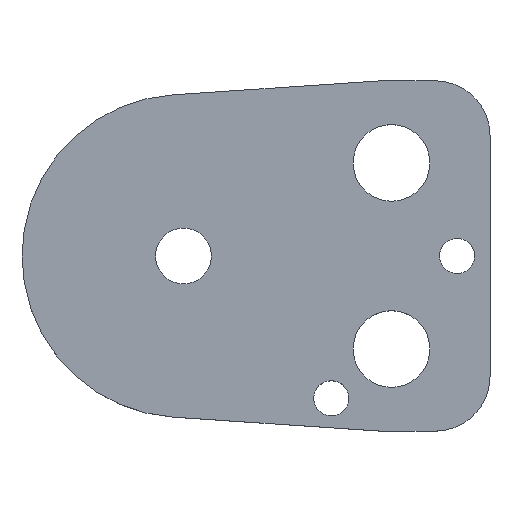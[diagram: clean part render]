
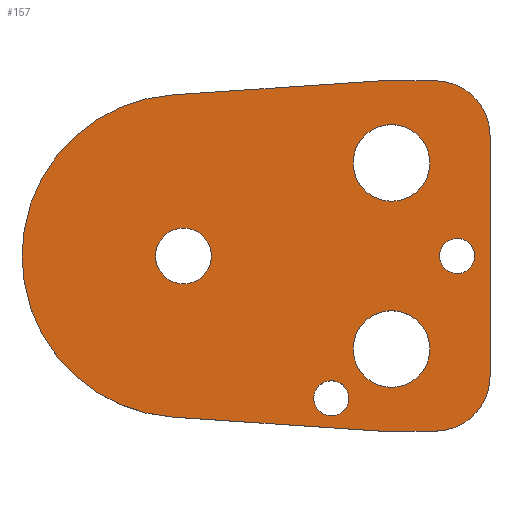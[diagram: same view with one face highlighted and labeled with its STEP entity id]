
A CAD part, top view. The second image highlights one B-rep face of the part: STEP entity #157.
In plain terms, the highlighted planar face has unit normal (0, 0, 1).
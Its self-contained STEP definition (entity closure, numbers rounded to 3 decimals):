
#103=FACE_BOUND('',#207,.T.);
#104=FACE_BOUND('',#208,.T.);
#105=FACE_BOUND('',#209,.T.);
#106=FACE_BOUND('',#210,.T.);
#107=FACE_BOUND('',#211,.T.);
#108=FACE_BOUND('',#212,.T.);
#122=CIRCLE('',#480,10.);
#124=CIRCLE('',#484,10.);
#127=CIRCLE('',#490,29.5);
#138=CIRCLE('',#503,3.2);
#139=CIRCLE('',#504,3.2);
#140=CIRCLE('',#505,7.);
#141=CIRCLE('',#506,7.);
#142=CIRCLE('',#507,7.);
#143=CIRCLE('',#508,7.);
#144=CIRCLE('',#509,3.2);
#145=CIRCLE('',#510,3.2);
#146=CIRCLE('',#511,5.1);
#147=CIRCLE('',#512,5.1);
#157=ADVANCED_FACE('',(#103,#104,#105,#106,#107,#108),#174,.T.);
#174=PLANE('',#513);
#207=EDGE_LOOP('',(#273,#274,#275,#276,#277,#278,#279,#280));
#208=EDGE_LOOP('',(#281,#282));
#209=EDGE_LOOP('',(#283,#284));
#210=EDGE_LOOP('',(#285,#286));
#211=EDGE_LOOP('',(#287,#288));
#212=EDGE_LOOP('',(#289,#290));
#273=ORIENTED_EDGE('',*,*,#368,.T.);
#274=ORIENTED_EDGE('',*,*,#372,.T.);
#275=ORIENTED_EDGE('',*,*,#375,.T.);
#276=ORIENTED_EDGE('',*,*,#378,.T.);
#277=ORIENTED_EDGE('',*,*,#381,.T.);
#278=ORIENTED_EDGE('',*,*,#384,.T.);
#279=ORIENTED_EDGE('',*,*,#387,.T.);
#280=ORIENTED_EDGE('',*,*,#390,.T.);
#281=ORIENTED_EDGE('',*,*,#401,.T.);
#282=ORIENTED_EDGE('',*,*,#402,.T.);
#283=ORIENTED_EDGE('',*,*,#403,.T.);
#284=ORIENTED_EDGE('',*,*,#404,.T.);
#285=ORIENTED_EDGE('',*,*,#405,.T.);
#286=ORIENTED_EDGE('',*,*,#406,.T.);
#287=ORIENTED_EDGE('',*,*,#407,.T.);
#288=ORIENTED_EDGE('',*,*,#408,.T.);
#289=ORIENTED_EDGE('',*,*,#409,.T.);
#290=ORIENTED_EDGE('',*,*,#410,.T.);
#332=VERTEX_POINT('',#649);
#333=VERTEX_POINT('',#651);
#336=VERTEX_POINT('',#658);
#338=VERTEX_POINT('',#664);
#340=VERTEX_POINT('',#670);
#342=VERTEX_POINT('',#676);
#344=VERTEX_POINT('',#682);
#346=VERTEX_POINT('',#688);
#357=VERTEX_POINT('',#717);
#358=VERTEX_POINT('',#718);
#359=VERTEX_POINT('',#721);
#360=VERTEX_POINT('',#722);
#361=VERTEX_POINT('',#725);
#362=VERTEX_POINT('',#726);
#363=VERTEX_POINT('',#729);
#364=VERTEX_POINT('',#730);
#365=VERTEX_POINT('',#733);
#366=VERTEX_POINT('',#734);
#368=EDGE_CURVE('',#333,#332,#422,.T.);
#372=EDGE_CURVE('',#332,#336,#426,.T.);
#375=EDGE_CURVE('',#336,#338,#122,.T.);
#378=EDGE_CURVE('',#338,#340,#430,.T.);
#381=EDGE_CURVE('',#340,#342,#124,.T.);
#384=EDGE_CURVE('',#342,#344,#434,.T.);
#387=EDGE_CURVE('',#344,#346,#437,.T.);
#390=EDGE_CURVE('',#346,#333,#127,.T.);
#401=EDGE_CURVE('',#357,#358,#138,.T.);
#402=EDGE_CURVE('',#358,#357,#139,.T.);
#403=EDGE_CURVE('',#359,#360,#140,.T.);
#404=EDGE_CURVE('',#360,#359,#141,.T.);
#405=EDGE_CURVE('',#361,#362,#142,.T.);
#406=EDGE_CURVE('',#362,#361,#143,.T.);
#407=EDGE_CURVE('',#363,#364,#144,.T.);
#408=EDGE_CURVE('',#364,#363,#145,.T.);
#409=EDGE_CURVE('',#365,#366,#146,.T.);
#410=EDGE_CURVE('',#366,#365,#147,.T.);
#422=LINE('',#650,#450);
#426=LINE('',#659,#454);
#430=LINE('',#671,#458);
#434=LINE('',#683,#462);
#437=LINE('',#689,#465);
#450=VECTOR('',#527,1.);
#454=VECTOR('',#533,1.);
#458=VECTOR('',#545,1.);
#462=VECTOR('',#557,1.);
#465=VECTOR('',#562,1.);
#480=AXIS2_PLACEMENT_3D('',#665,#538,#539);
#484=AXIS2_PLACEMENT_3D('',#677,#550,#551);
#490=AXIS2_PLACEMENT_3D('',#693,#568,#569);
#503=AXIS2_PLACEMENT_3D('',#716,#594,#595);
#504=AXIS2_PLACEMENT_3D('',#719,#596,#597);
#505=AXIS2_PLACEMENT_3D('',#720,#598,#599);
#506=AXIS2_PLACEMENT_3D('',#723,#600,#601);
#507=AXIS2_PLACEMENT_3D('',#724,#602,#603);
#508=AXIS2_PLACEMENT_3D('',#727,#604,#605);
#509=AXIS2_PLACEMENT_3D('',#728,#606,#607);
#510=AXIS2_PLACEMENT_3D('',#731,#608,#609);
#511=AXIS2_PLACEMENT_3D('',#732,#610,#611);
#512=AXIS2_PLACEMENT_3D('',#735,#612,#613);
#513=AXIS2_PLACEMENT_3D('',#736,#614,#615);
#527=DIRECTION('',(0.998,-0.067,0.));
#533=DIRECTION('',(1.,0.,0.));
#538=DIRECTION('',(0.,0.,1.));
#539=DIRECTION('',(-0.707,0.707,0.));
#545=DIRECTION('',(0.,1.,0.));
#550=DIRECTION('',(0.,0.,1.));
#551=DIRECTION('',(-0.707,-0.707,0.));
#557=DIRECTION('',(-1.,0.,0.));
#562=DIRECTION('',(-0.998,-0.067,0.));
#568=DIRECTION('',(0.,0.,1.));
#569=DIRECTION('',(1.,0.,0.));
#594=DIRECTION('',(0.,0.,-1.));
#595=DIRECTION('',(-1.,0.,0.));
#596=DIRECTION('',(0.,0.,-1.));
#597=DIRECTION('',(1.,0.,0.));
#598=DIRECTION('',(0.,0.,-1.));
#599=DIRECTION('',(-1.,0.,0.));
#600=DIRECTION('',(0.,0.,-1.));
#601=DIRECTION('',(1.,0.,0.));
#602=DIRECTION('',(0.,0.,-1.));
#603=DIRECTION('',(-1.,0.,0.));
#604=DIRECTION('',(0.,0.,-1.));
#605=DIRECTION('',(1.,0.,0.));
#606=DIRECTION('',(0.,0.,-1.));
#607=DIRECTION('',(-1.,0.,0.));
#608=DIRECTION('',(0.,0.,-1.));
#609=DIRECTION('',(1.,0.,0.));
#610=DIRECTION('',(0.,0.,-1.));
#611=DIRECTION('',(-1.,0.,0.));
#612=DIRECTION('',(0.,0.,-1.));
#613=DIRECTION('',(1.,0.,0.));
#614=DIRECTION('',(0.,0.,1.));
#615=DIRECTION('',(0.998,-0.067,0.));
#649=CARTESIAN_POINT('',(36.,-32.,6.));
#650=CARTESIAN_POINT('',(36.,-32.,6.));
#651=CARTESIAN_POINT('',(-1.989,-29.433,6.));
#658=CARTESIAN_POINT('',(46.,-32.,6.));
#659=CARTESIAN_POINT('',(36.,-32.,6.));
#664=CARTESIAN_POINT('',(56.,-22.,6.));
#665=CARTESIAN_POINT('',(46.,-22.,6.));
#670=CARTESIAN_POINT('',(56.,22.,6.));
#671=CARTESIAN_POINT('',(56.,22.,6.));
#676=CARTESIAN_POINT('',(46.,32.,6.));
#677=CARTESIAN_POINT('',(46.,22.,6.));
#682=CARTESIAN_POINT('',(36.,32.,6.));
#683=CARTESIAN_POINT('',(36.,32.,6.));
#688=CARTESIAN_POINT('',(-1.989,29.433,6.));
#689=CARTESIAN_POINT('',(36.,32.,6.));
#693=CARTESIAN_POINT('',(0.,0.,6.));
#716=CARTESIAN_POINT('',(50.,0.,6.));
#717=CARTESIAN_POINT('',(50.,3.2,6.));
#718=CARTESIAN_POINT('',(50.,-3.2,6.));
#719=CARTESIAN_POINT('',(50.,0.,6.));
#720=CARTESIAN_POINT('',(38.,17.,6.));
#721=CARTESIAN_POINT('',(38.,24.,6.));
#722=CARTESIAN_POINT('',(38.,10.,6.));
#723=CARTESIAN_POINT('',(38.,17.,6.));
#724=CARTESIAN_POINT('',(38.,-17.,6.));
#725=CARTESIAN_POINT('',(38.,-10.,6.));
#726=CARTESIAN_POINT('',(38.,-24.,6.));
#727=CARTESIAN_POINT('',(38.,-17.,6.));
#728=CARTESIAN_POINT('',(27.,-26.,6.));
#729=CARTESIAN_POINT('',(27.,-22.8,6.));
#730=CARTESIAN_POINT('',(27.,-29.2,6.));
#731=CARTESIAN_POINT('',(27.,-26.,6.));
#732=CARTESIAN_POINT('',(0.,0.,6.));
#733=CARTESIAN_POINT('',(0.,5.1,6.));
#734=CARTESIAN_POINT('',(0.,-5.1,6.));
#735=CARTESIAN_POINT('',(0.,0.,6.));
#736=CARTESIAN_POINT('',(-1.989,-29.433,6.));
